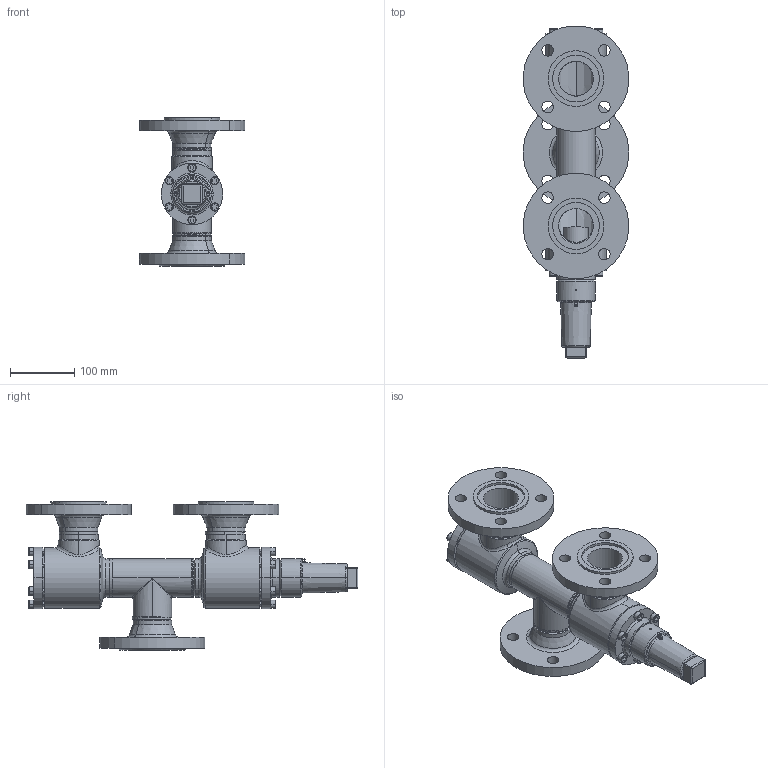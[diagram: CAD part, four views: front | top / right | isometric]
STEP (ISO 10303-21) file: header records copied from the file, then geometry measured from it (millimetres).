
FILE_DESCRIPTION (( 'STEP AP214' ), '1' );
FILE_NAME ('WVB23020D15-DN050_DIN-FL-N-F_PS40.STEP', '2010-09-08T08:42:56', ( 'Eckhard Grams' ), ( 'AWP Kälte Klima Armaturen GmbH' ), 'SwSTEP 2.0', 'SolidWorks 2002296', '' );
FILE_SCHEMA (( 'AUTOMOTIVE_DESIGN' ));
Length unit declared in the file: millimetre
Products named in the file (18): WVB23020D15-DN050_DIN-FL-N-F_PS40; WVB-R23000E15_Deck+Schr-DN40-50_Standard; Deckel23000E15-DN40-50_Standard; AVB16300E15_Deck+Schr-DN40-50_Standard; Deckel16300E15-DN40-50_Standard; Zylinderschraube-DIN912_M 8x  25; Geh,kpl23020E15-DN050_DIN-FL-N-F_PS40_Standard; Flansch-DIN2635-Nut_PS40_DIN-Flansch-DN050_PS40-Nut; Flansch-DIN2635-Feder_PS40_DIN-Flansch-DN050_PS40-Feder; Geh,kpl23000E15-DN050_R1_PS40_Standard; bead23000-15-2_Standard; bead23000-15-1_Standard; Gehäuse23000E15-DN050_R1_PS40_Standard; T-Stück DIN2615_DN 50; bead23020-15-3_Standard; bead23020-15-2_Standard; bead23020-15-1_Standard; Kappe 16402-15_DN40-65 (M52x3)_Standard
Assembly tree (30 placements, depth 4):
  WVB23020D15-DN050_DIN-FL-N-F_PS40
    AVB16300E15_Deck+Schr-DN40-50_Standard
      Zylinderschraube-DIN912_M 8x  25  x6
      Deckel16300E15-DN40-50_Standard
    Kappe 16402-15_DN40-65 (M52x3)_Standard
    Geh,kpl23020E15-DN050_DIN-FL-N-F_PS40_Standard
      Geh,kpl23000E15-DN050_R1_PS40_Standard
        Gehäuse23000E15-DN050_R1_PS40_Standard  x2
        bead23000-15-1_Standard
        T-Stück DIN2615_DN 50
        bead23000-15-2_Standard
      bead23020-15-3_Standard
      Flansch-DIN2635-Nut_PS40_DIN-Flansch-DN050_PS40-Nut
      Flansch-DIN2635-Feder_PS40_DIN-Flansch-DN050_PS40-Feder  x2
      bead23020-15-1_Standard
      bead23020-15-2_Standard
    WVB-R23000E15_Deck+Schr-DN40-50_Standard
      Zylinderschraube-DIN912_M 8x  25  x6
      Deckel23000E15-DN40-50_Standard
Bounding box: 164.37 x 518.19 x 232 mm (x, y, z)
Volume: 2197430.3 mm3; surface area: 495218.6 mm2
Topology: 26 solids, 26 shells, 613 faces, 1385 edges, 859 vertices
Faces by surface type: cylinder 230, plane 191, cone 101, torus 55, bspline 36
Entity records: 35033 total; most frequent: CARTESIAN_POINT 26019, DIRECTION 1742, ORIENTED_EDGE 1620, EDGE_CURVE 810, AXIS2_PLACEMENT_3D 741, VERTEX_POINT 502, EDGE_LOOP 428, CIRCLE 390
